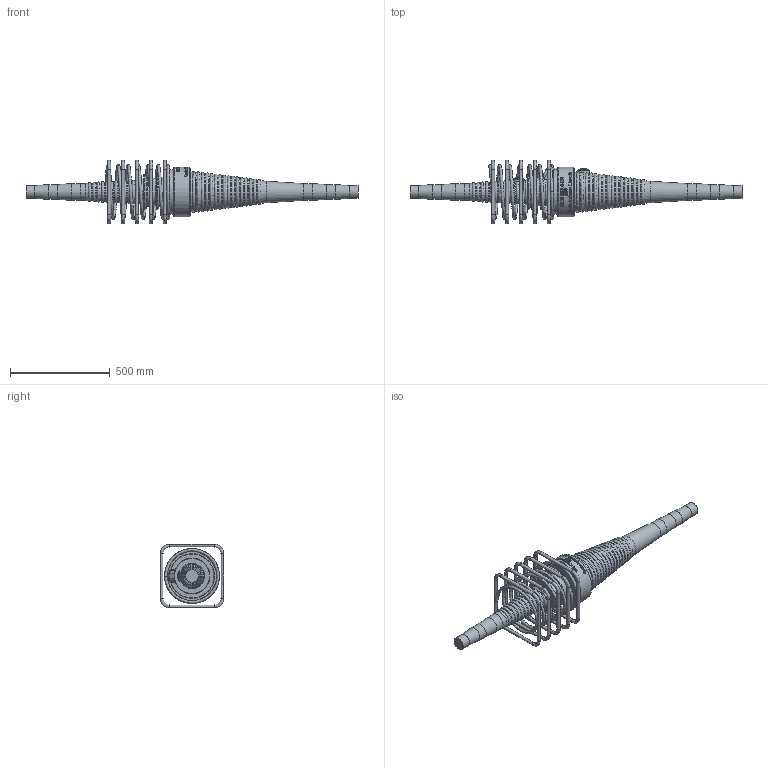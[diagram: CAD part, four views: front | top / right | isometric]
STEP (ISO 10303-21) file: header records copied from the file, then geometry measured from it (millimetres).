
FILE_DESCRIPTION(/* description */ (''),/* implementation_level */ '2;1');
FILE_NAME(/* name */ 'Z:\04 Publications\05 Give-out\BBR\6_3D_Models\BBR VT CONA CMI\BBR VT CONA CMI BT\01206\BBR VT CONA CMI BT 1206_Couler K Assembly_CS-34,28.stp',/* time_stamp */ '2017-05-05T08:32:46+02:00',/* author */ ('IP'),/* organization */ (''),/* preprocessor_version */ 'ST-DEVELOPER v16.1',/* originating_system */ 'Autodesk Inventor 2016',/* authorisation */ '');
FILE_SCHEMA (('AUTOMOTIVE_DESIGN { 1 0 10303 214 3 1 1 }'));
Products named in the file (1): BBR VT CONA CMI BT 1206_Couler K Assembly_CS-34,28
Bounding box: 1664.56 x 320 x 320 mm (x, y, z)
Volume: 23412270.4 mm3; surface area: 1283693.1 mm2
Topology: 7 solids, 7 shells, 986 faces, 2481 edges, 1570 vertices
Faces by surface type: bspline 419, plane 267, torus 130, cylinder 112, cone 34, sphere 24
Full cylindrical faces by diameter (mm): 16 x20, 34 x2, 57 x2, 64 x1, 64.013 x1, 74 x1, 74.013 x1, 84 x1, 84.013 x1, 177.282 x1, 178.841 x1, 240 x1, 246 x1, 250 x1
Entity records: 42286 total; most frequent: CARTESIAN_POINT 21495, ORIENTED_EDGE 4592, DIRECTION 3164, EDGE_CURVE 2296, VERTEX_POINT 1561, EDGE_LOOP 1235, AXIS2_PLACEMENT_3D 1141, FACE_OUTER_BOUND 986
